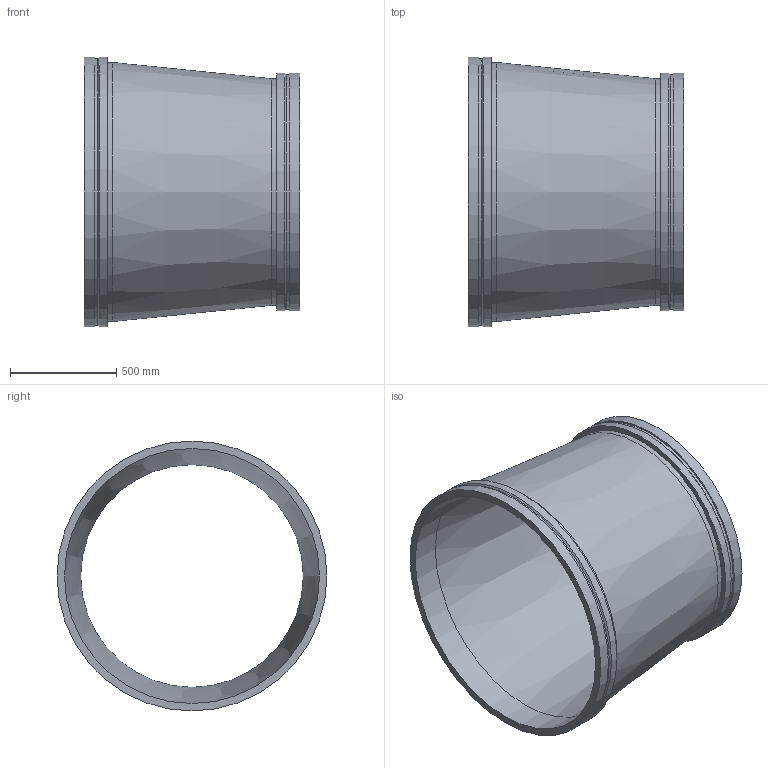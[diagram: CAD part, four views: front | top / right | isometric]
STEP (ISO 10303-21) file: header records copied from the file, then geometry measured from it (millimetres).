
FILE_DESCRIPTION(/* description */ ('VIC REDUCER CONCENTRIC No W50 VR','CAx-IF Rec.Pracs.---Representation and Presentation of Product Manufacturing Information (PMI)---4.0---2014-10-13'),/* implementation_level */ '2;1');
FILE_NAME(/* name */ 'C:\Users\kkamble\AppData\Roaming\Autodesk\ApplicationPlugins\Back Up\Victaulic_Vic-Ring_Reducer Concentric_No W50 VR (AGR)\Victaulic_Vic-Ring_Reducer Concentric_No W50 VR (AGR)_48.0x42.0 (1200x1050).stp',/* time_stamp */ '2020-09-10T11:48:01+05:00',/* author */ ('cps_temp'),/* organization */ ('Victaulic'),/* preprocessor_version */ 'ST-DEVELOPER v17.2',/* originating_system */ 'Autodesk Inventor 2019',/* authorisation */ '');
FILE_SCHEMA (('AP242_MANAGED_MODEL_BASED_3D_ENGINEERING_MIM_LF { 1 0 10303 442 1 1 4 }'));
Length unit declared in the file: inch
Products named in the file (1): W50 VR-48.0x42.0
Bounding box: 1016 x 1270 x 1270 mm (x, y, z)
Volume: 53548036.6 mm3; surface area: 7823498.9 mm2
Topology: 1 solids, 1 shells, 20 faces, 54 edges, 40 vertices
Faces by surface type: cylinder 10, plane 6, cone 4
Full cylindrical faces by diameter (mm): 1047.75 x1, 1066.8 x1, 1101.725 x1, 1117.6 x2, 1200.15 x1, 1219.2 x1, 1254.125 x1, 1270 x2
Entity records: 830 total; most frequent: DIRECTION 162, CARTESIAN_POINT 132, ORIENTED_EDGE 108, AXIS2_PLACEMENT_3D 74, EDGE_CURVE 54, CIRCLE 40, VERTEX_POINT 40, EDGE_LOOP 26
